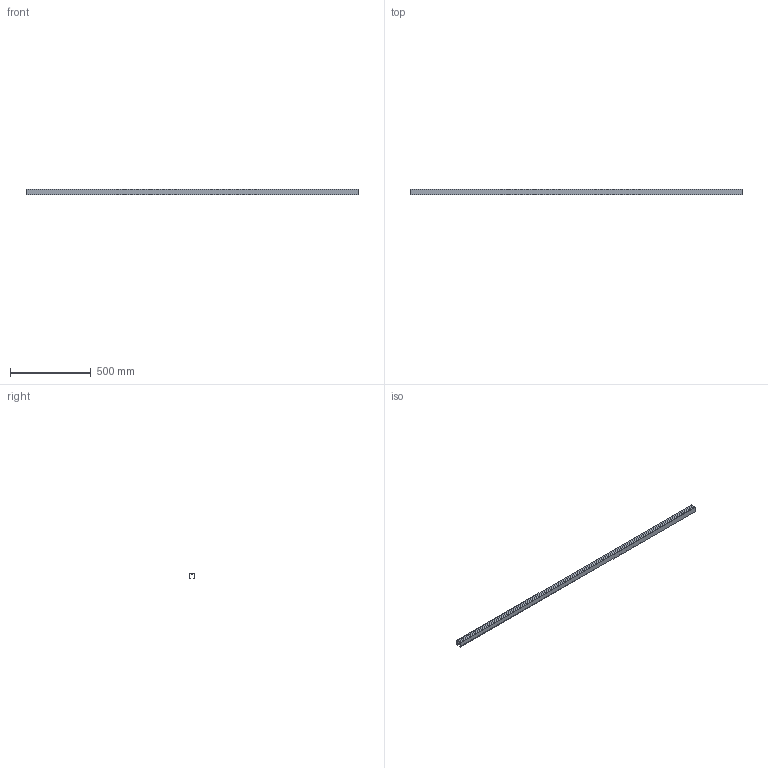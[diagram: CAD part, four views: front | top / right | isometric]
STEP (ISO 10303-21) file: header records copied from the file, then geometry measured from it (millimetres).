
FILE_DESCRIPTION(('STEP AP242'),'1');
FILE_NAME('OPO_65.081.01_volu_3d.stp','2026-01-30T20:48:36',(' '),(' '),'Spatial InterOp 3D',' ',' ');
FILE_SCHEMA(('AP242_MANAGED_MODEL_BASED_3D_ENGINEERING_MIM_LF {1 0 10303 442 1 1 4}'));
Length unit declared in the file: millimetre
Products named in the file (1): 1
Bounding box: 2050 x 33 x 33 mm (x, y, z)
Volume: 584634.4 mm3; surface area: 477012.4 mm2
Topology: 1 solids, 1 shells, 76 faces, 208 edges, 138 vertices
Faces by surface type: plane 56, cylinder 20
Entity records: 3020 total; most frequent: CARTESIAN_POINT 423, ORIENTED_EDGE 416, DIRECTION 402, EDGE_CURVE 208, LINE 168, VECTOR 168, VERTEX_POINT 138, AXIS2_PLACEMENT_3D 117
